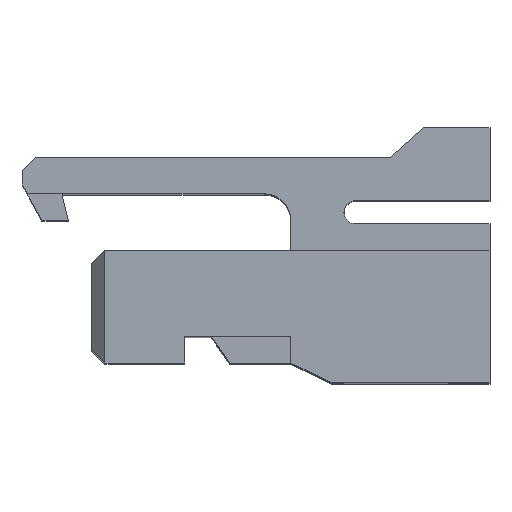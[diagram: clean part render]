
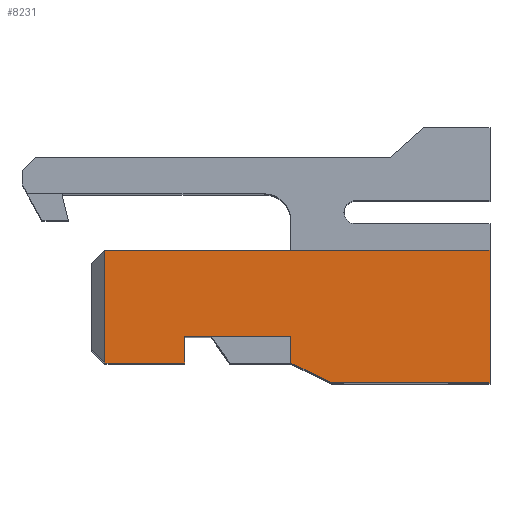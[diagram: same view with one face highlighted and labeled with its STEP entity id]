
A CAD part, top view. The second image highlights one B-rep face of the part: STEP entity #8231.
In plain terms, the highlighted planar face has unit normal (0, 0, 1).
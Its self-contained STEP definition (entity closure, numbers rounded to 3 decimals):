
#13=DIRECTION('',(-1.,0.,0.));
#14=VECTOR('',#13,5.8);
#15=CARTESIAN_POINT('',(7.05,2.,0.));
#16=LINE('',#15,#14);
#433=DIRECTION('',(0.,1.,0.));
#434=VECTOR('',#433,2.);
#435=CARTESIAN_POINT('',(7.05,0.,0.));
#436=LINE('',#435,#434);
#529=DIRECTION('',(1.,0.,0.));
#530=VECTOR('',#529,2.39);
#531=CARTESIAN_POINT('',(4.66,0.,0.));
#532=LINE('',#531,#530);
#665=DIRECTION('',(1.,0.,0.));
#666=VECTOR('',#665,1.6);
#667=CARTESIAN_POINT('',(2.45,0.7,0.));
#668=LINE('',#667,#666);
#1357=DIRECTION('',(0.,-1.,0.));
#1358=VECTOR('',#1357,0.4);
#1359=CARTESIAN_POINT('',(4.05,0.7,0.));
#1360=LINE('',#1359,#1358);
#1369=DIRECTION('',(0.,-1.,0.));
#1370=VECTOR('',#1369,0.4);
#1371=CARTESIAN_POINT('',(2.45,0.7,0.));
#1372=LINE('',#1371,#1370);
#1373=DIRECTION('',(-1.,0.,0.));
#1374=VECTOR('',#1373,1.2);
#1375=CARTESIAN_POINT('',(2.45,0.3,0.));
#1376=LINE('',#1375,#1374);
#1377=DIRECTION('',(-0.897,0.441,0.));
#1378=VECTOR('',#1377,0.68);
#1379=CARTESIAN_POINT('',(4.66,0.,0.));
#1380=LINE('',#1379,#1378);
#3061=DIRECTION('',(0.,-1.,0.));
#3062=VECTOR('',#3061,1.7);
#3063=CARTESIAN_POINT('',(1.25,2.,0.));
#3064=LINE('',#3063,#3062);
#4915=CARTESIAN_POINT('',(1.25,0.3,0.));
#4916=VERTEX_POINT('',#4915);
#4917=CARTESIAN_POINT('',(2.45,0.3,0.));
#4918=VERTEX_POINT('',#4917);
#4939=CARTESIAN_POINT('',(2.45,0.7,0.));
#4940=VERTEX_POINT('',#4939);
#4941=CARTESIAN_POINT('',(4.05,0.7,0.));
#4942=VERTEX_POINT('',#4941);
#4943=CARTESIAN_POINT('',(1.25,2.,0.));
#4944=VERTEX_POINT('',#4943);
#4945=CARTESIAN_POINT('',(7.05,2.,0.));
#4946=VERTEX_POINT('',#4945);
#4947=CARTESIAN_POINT('',(7.05,0.,0.));
#4948=VERTEX_POINT('',#4947);
#4949=CARTESIAN_POINT('',(4.66,0.,0.));
#4950=VERTEX_POINT('',#4949);
#4951=CARTESIAN_POINT('',(4.05,0.3,0.));
#4952=VERTEX_POINT('',#4951);
#8211=CARTESIAN_POINT('',(4.15,1.,0.));
#8212=DIRECTION('',(0.,0.,1.));
#8213=DIRECTION('',(1.,0.,0.));
#8214=AXIS2_PLACEMENT_3D('',#8211,#8212,#8213);
#8215=PLANE('',#8214);
#8216=ORIENTED_EDGE('',*,*,#7331,.F.);
#8218=ORIENTED_EDGE('',*,*,#8217,.T.);
#8220=ORIENTED_EDGE('',*,*,#8219,.T.);
#8222=ORIENTED_EDGE('',*,*,#8221,.F.);
#8223=ORIENTED_EDGE('',*,*,#6392,.F.);
#8224=ORIENTED_EDGE('',*,*,#6848,.F.);
#8225=ORIENTED_EDGE('',*,*,#7140,.F.);
#8227=ORIENTED_EDGE('',*,*,#8226,.T.);
#8228=ORIENTED_EDGE('',*,*,#8202,.F.);
#8229=EDGE_LOOP('',(#8216,#8218,#8220,#8222,#8223,#8224,#8225,#8227,#8228));
#8230=FACE_OUTER_BOUND('',#8229,.F.);
#6392=EDGE_CURVE('',#4946,#4944,#16,.T.);
#6848=EDGE_CURVE('',#4948,#4946,#436,.T.);
#7140=EDGE_CURVE('',#4950,#4948,#532,.T.);
#7331=EDGE_CURVE('',#4940,#4942,#668,.T.);
#8202=EDGE_CURVE('',#4942,#4952,#1360,.T.);
#8217=EDGE_CURVE('',#4940,#4918,#1372,.T.);
#8219=EDGE_CURVE('',#4918,#4916,#1376,.T.);
#8221=EDGE_CURVE('',#4944,#4916,#3064,.T.);
#8226=EDGE_CURVE('',#4950,#4952,#1380,.T.);
#8231=ADVANCED_FACE('',(#8230),#8215,.T.);
